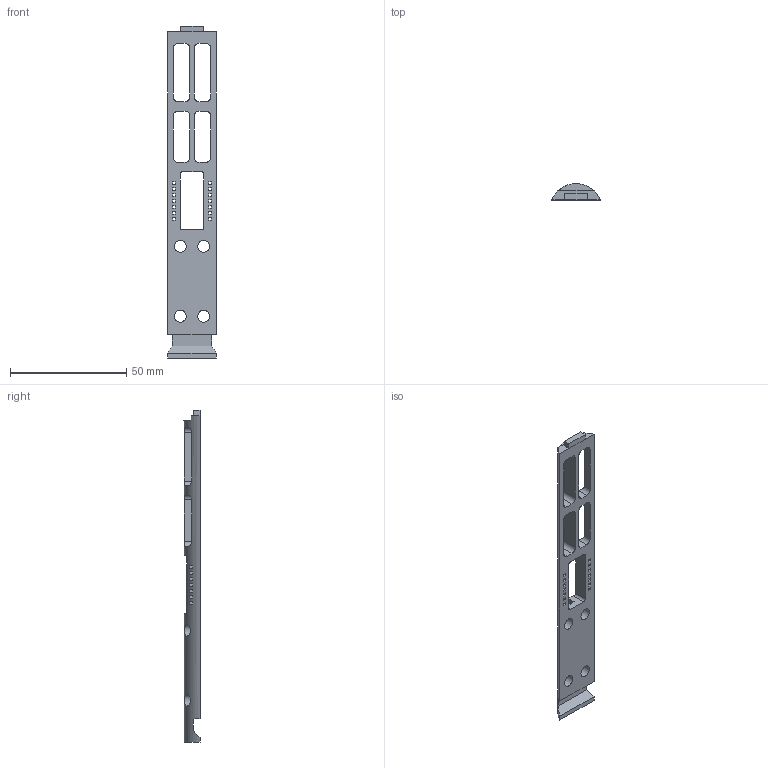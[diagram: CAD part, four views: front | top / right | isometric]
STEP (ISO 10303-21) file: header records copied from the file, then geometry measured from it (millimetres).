
FILE_DESCRIPTION(('FreeCAD Model'),'2;1');
FILE_NAME('Open CASCADE Shape Model','2026-01-25T17:10:51',(''),(''), 'Open CASCADE STEP processor 7.8','FreeCAD','Unknown');
FILE_SCHEMA(('AUTOMOTIVE_DESIGN { 1 0 10303 214 1 1 1 1 }'));
Length unit declared in the file: millimetre
Products named in the file (1): Slice.0
Bounding box: 20.75 x 6.89 x 142.5 mm (x, y, z)
Volume: 7985.8 mm3; surface area: 7230 mm2
Topology: 1 solids, 1 shells, 119 faces, 354 edges, 236 vertices
Faces by surface type: plane 92, cylinder 25, bspline 2
Full cylindrical faces by diameter (mm): 5.15 x4
Entity records: 4674 total; most frequent: CARTESIAN_POINT 1355, ORIENTED_EDGE 708, DIRECTION 632, EDGE_CURVE 354, LINE 254, VECTOR 254, VERTEX_POINT 236, AXIS2_PLACEMENT_3D 189
